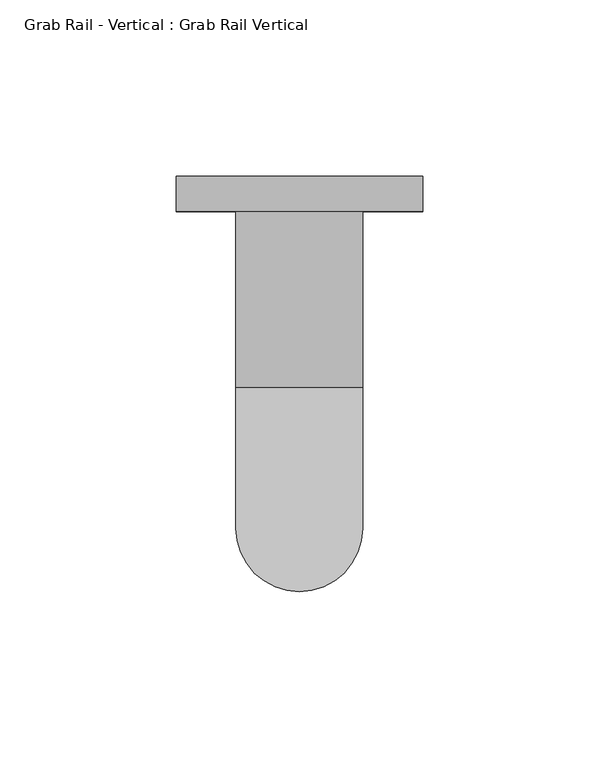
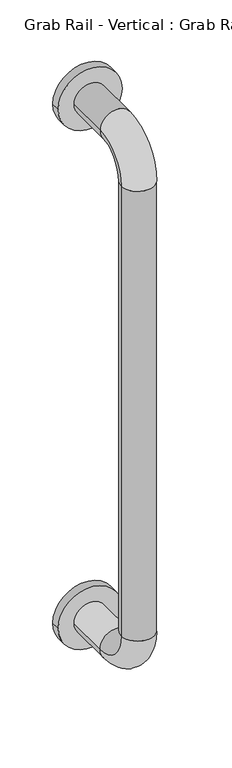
"""IFC4 building model written with IfcOpenShell, lengths in millimetres: flow terminal geometry, Grab Rail - Vertical : Grab Rail Vertical."""

import ifcopenshell
import ifcopenshell.guid

model = None  # the IFC model being written
_history = None  # IfcOwnerHistory: only IFC2X3 demands one
_inside = {}  # id of a spatial element -> (the spatial element, [elements in it])
_under = {}  # id of a project, library or spatial element -> (it, [spatial elements below it])
_declared = {}  # id of a project -> (the project, [libraries it declares])
_typed = {}  # id of a type object -> (the type object, [elements of that type])
_made_of = {}  # id of a material, layer set ... -> (it, [elements and type objects made of it])


def new_model(schema):
    """Start an empty IFC model of exactly this schema.

    Asked for "IFC4X3", IfcOpenShell would pick the latest addendum, in which some entities
    have other attributes; the version numbers below select the first issue.
    IFC2X3 requires an IfcOwnerHistory on every rooted entity: one is made here for all.
    """
    global model, _history
    if schema == "IFC4X3":
        model = ifcopenshell.file(schema_version=(4, 3, 0, 0))
    else:
        model = ifcopenshell.file(schema=schema)
    _inside.clear()
    _under.clear()
    _declared.clear()
    _typed.clear()
    _made_of.clear()
    _history = None
    if model.schema == "IFC2X3":
        org = make("IfcOrganization", Name="unknown")
        user = make(
            "IfcPersonAndOrganization",
            ThePerson=make("IfcPerson", FamilyName="unknown"),
            TheOrganization=org,
        )
        app = make(
            "IfcApplication",
            ApplicationDeveloper=org,
            Version="unknown",
            ApplicationFullName="unknown",
            ApplicationIdentifier="unknown",
        )
        _history = make(
            "IfcOwnerHistory",
            OwningUser=user,
            OwningApplication=app,
            ChangeAction="ADDED",
            CreationDate=0,
        )
    return model


def make(cls, **values):
    """One entity of the class cls with the attributes given. An attribute that is None is left unset."""
    return model.create_entity(
        cls, **{name: value for name, value in values.items() if value is not None}
    )


def rooted(cls, **values):
    """An entity with a GlobalId (a new one), such as an element, a storey or a relation."""
    return make(cls, GlobalId=ifcopenshell.guid.new(), OwnerHistory=_history, **values)


def si_unit(unit_type, name, prefix=None):
    """IfcSIUnit, for example si_unit("LENGTHUNIT", "METRE", prefix="MILLI")."""
    return make("IfcSIUnit", UnitType=unit_type, Prefix=prefix, Name=name)


def assignment(units):
    """IfcUnitAssignment: the units of a project."""
    return None if units is None else make("IfcUnitAssignment", Units=units)


def point(xyz):
    """IfcCartesianPoint."""
    return None if xyz is None else make("IfcCartesianPoint", Coordinates=xyz)


def direction(xyz):
    """IfcDirection."""
    return None if xyz is None else make("IfcDirection", DirectionRatios=xyz)


def frame(location, z_axis=None, x_axis=None):
    """IfcAxis2Placement3D, a coordinate frame: its origin and axes. An axis left out is left unset."""
    return make(
        "IfcAxis2Placement3D",
        Location=point(location),
        Axis=direction(z_axis),
        RefDirection=direction(x_axis),
    )


def frame_2d(location, x_axis=None):
    """IfcAxis2Placement2D, a coordinate frame in the plane: its origin and x axis."""
    return make(
        "IfcAxis2Placement2D", Location=point(location), RefDirection=direction(x_axis)
    )


def origin():
    """The frame at (0, 0, 0) with its axes left unset."""
    return frame((0.0, 0.0, 0.0))


def place(relative_to, where):
    """IfcLocalPlacement: puts the frame where relative to a parent placement (None: the world)."""
    return make(
        "IfcLocalPlacement", PlacementRelTo=relative_to, RelativePlacement=where
    )


def context(
    kind, dimensions, precision=None, world=None, true_north=None, identifier=None
):
    """IfcGeometricRepresentationContext, for example the 3D "Model" context."""
    return make(
        "IfcGeometricRepresentationContext",
        ContextIdentifier=identifier,
        ContextType=kind,
        CoordinateSpaceDimension=dimensions,
        Precision=precision,
        WorldCoordinateSystem=world,
        TrueNorth=true_north,
    )


def project(units=None, contexts=None):
    """IfcProject with its units and contexts."""
    return rooted(
        "IfcProject",
        Name="project",
        RepresentationContexts=contexts,
        UnitsInContext=assignment(units),
    )


def spatial(cls, under=None, at=None, **own):
    """A site, building, storey or space (cls), placed at a placement, below another one or the project."""
    s = rooted(cls, ObjectPlacement=at, **own)
    if under is not None:
        _under.setdefault(under.id(), (under, []))[1].append(s)
    return s


def circle_curve(where, radius):
    """IfcCircle in the frame where."""
    return make("IfcCircle", Position=where, Radius=radius)


def ellipse_curve(where, semi_axis1, semi_axis2):
    """IfcEllipse in the frame where."""
    return make(
        "IfcEllipse", Position=where, SemiAxis1=semi_axis1, SemiAxis2=semi_axis2
    )


def trimmed(basis, trim1, trim2, sense, master):
    """IfcTrimmedCurve: the piece of a basis curve between two trims."""
    return make(
        "IfcTrimmedCurve",
        BasisCurve=basis,
        Trim1=trim1,
        Trim2=trim2,
        SenseAgreement=sense,
        MasterRepresentation=master,
    )


def segment(curve, same_sense, transition):
    """IfcCompositeCurveSegment."""
    return make(
        "IfcCompositeCurveSegment",
        Transition=transition,
        SameSense=same_sense,
        ParentCurve=curve,
    )


def composite_curve(segments, self_intersect=None):
    """IfcCompositeCurve: segments joined end to end."""
    return make("IfcCompositeCurve", Segments=segments, SelfIntersect=self_intersect)


def outline(outer, holes=None, kind="AREA"):
    """IfcArbitraryClosedProfileDef: a profile drawn as a closed curve; with holes, ...WithVoids."""
    if holes is None:
        return make("IfcArbitraryClosedProfileDef", ProfileType=kind, OuterCurve=outer)
    return make(
        "IfcArbitraryProfileDefWithVoids",
        ProfileType=kind,
        OuterCurve=outer,
        InnerCurves=holes,
    )


def extrude(swept, where, along, depth):
    """IfcExtrudedAreaSolid: the profile swept, set in the frame where, extruded along a direction by depth."""
    return make(
        "IfcExtrudedAreaSolid",
        SweptArea=swept,
        Position=where,
        ExtrudedDirection=direction(along),
        Depth=depth,
    )


def shape(context_of_items, identifier, shape_type, items):
    """IfcShapeRepresentation: the items that make up one representation, for example the "Body"."""
    return make(
        "IfcShapeRepresentation",
        ContextOfItems=context_of_items,
        RepresentationIdentifier=identifier,
        RepresentationType=shape_type,
        Items=items,
    )


def source(mapping_origin, context_of_items, identifier, shape_type, items):
    """IfcRepresentationMap: a shape defined once, which mapped items show again and again."""
    return make(
        "IfcRepresentationMap",
        MappingOrigin=mapping_origin,
        MappedRepresentation=shape(context_of_items, identifier, shape_type, items),
    )


def transform(
    local_origin,
    x_axis=None,
    y_axis=None,
    z_axis=None,
    scale=None,
    scale2=None,
    scale3=None,
    uniform=True,
):
    """IfcCartesianTransformationOperator3D, or its non-uniform kind. x_axis, y_axis, z_axis: its Axis1, 2, 3."""
    if uniform:
        return make(
            "IfcCartesianTransformationOperator3D",
            Axis1=direction(x_axis),
            Axis2=direction(y_axis),
            LocalOrigin=point(local_origin),
            Scale=scale,
            Axis3=direction(z_axis),
        )
    return make(
        "IfcCartesianTransformationOperator3DnonUniform",
        Axis1=direction(x_axis),
        Axis2=direction(y_axis),
        LocalOrigin=point(local_origin),
        Scale=scale,
        Axis3=direction(z_axis),
        Scale2=scale2,
        Scale3=scale3,
    )


def mapped(mapping_source, mapping_target):
    """IfcMappedItem: shows the shape of a source again, moved by a transform."""
    return make(
        "IfcMappedItem", MappingSource=mapping_source, MappingTarget=mapping_target
    )


def made_of(thing, what):
    """Note that an element or type object is made of a material, layer set ...; save() writes the relation."""
    if what is not None:
        _made_of.setdefault(what.id(), (what, []))[1].append(thing)
    return thing


def element(
    cls,
    number,
    at=None,
    inside=None,
    cuts=None,
    type_object=None,
    material=None,
    context=None,
    identifier="Body",
    shape_type=None,
    held_by="IfcProductDefinitionShape",
    body=None,
    shapes=None,
    **own,
):
    """One element of the class cls, such as IfcWall. Its Tag is "e" and its number.

    at: its placement. inside: the storey or other place that contains it. cuts: it is an
    opening in that element (IfcRelVoidsElement). A single representation is given by context,
    identifier, shape_type and body (its items); several are given by shapes. held_by: the class
    of the entity that holds the representations. save() writes the other relations.
    """
    e = rooted(cls, Tag="e%d" % number, ObjectPlacement=at, **own)
    if body is not None:
        shapes = [shape(context, identifier, shape_type, body)]
    if shapes is not None:
        e.Representation = make(held_by, Representations=shapes)
    if inside is not None:
        _inside.setdefault(inside.id(), (inside, []))[1].append(e)
    if cuts is not None:
        rooted(
            "IfcRelVoidsElement", RelatingBuildingElement=cuts, RelatedOpeningElement=e
        )
    if type_object is not None:
        _typed.setdefault(type_object.id(), (type_object, []))[1].append(e)
    return made_of(e, material)


def aggregate(whole, parts):
    """IfcRelAggregates: a whole, such as a stair, and the parts it consists of."""
    return rooted("IfcRelAggregates", RelatingObject=whole, RelatedObjects=parts)


def save(model, path):
    """Write the relations noted so far, then the file.

    IfcRelAggregates (storeys below a building ...), IfcRelContainedInSpatialStructure (elements
    in a storey), IfcRelDefinesByType, IfcRelAssociatesMaterial and IfcRelDeclares: one each for
    every whole, place, type object, material and project.
    """
    for whole, parts in _under.values():
        aggregate(whole, parts)
    for where, things in _inside.values():
        rooted(
            "IfcRelContainedInSpatialStructure",
            RelatedElements=things,
            RelatingStructure=where,
        )
    for kind, things in _typed.values():
        rooted("IfcRelDefinesByType", RelatedObjects=things, RelatingType=kind)
    for what, things in _made_of.values():
        rooted("IfcRelAssociatesMaterial", RelatedObjects=things, RelatingMaterial=what)
    for by, libraries in _declared.values():
        rooted("IfcRelDeclares", RelatingContext=by, RelatedDefinitions=libraries)
    model.write(path)


def plane_surface(at):
    """IfcPlane: the flat surface through the origin of the frame at, square to its z axis."""
    return make("IfcPlane", Position=at)


def cylinder_surface(at, radius):
    """IfcCylindricalSurface: all points at the distance radius from the z axis of the frame at."""
    return make("IfcCylindricalSurface", Position=at, Radius=radius)


def revolved_surface(curve, axis_point, axis_direction):
    """IfcSurfaceOfRevolution: the curve turned about the line through axis_point along axis_direction."""
    return make(
        "IfcSurfaceOfRevolution",
        SweptCurve=make("IfcArbitraryOpenProfileDef", ProfileType="CURVE", Curve=curve),
        AxisPosition=make("IfcAxis1Placement", Location=point(axis_point), Axis=direction(axis_direction)),
    )


def advanced_brep(points, edges, surfaces, faces):
    """IfcAdvancedBrep: a solid bounded by faces that lie on surfaces and meet in shared edges.

    An edge is (start, end): straight between two places in points (the first is 0);
    or (start, end, curve); or (start, end, curve, False) where it runs against its curve.
    A face is (place in surfaces, loops), or (place, loops, False) where it looks against
    its surface's normal. A loop lists edges by number (the first is 1), with a minus sign
    where the edge is run from its end to its start. The first loop is the outer one.
    """
    corners = [point(p) for p in points]
    vertices = [make("IfcVertexPoint", VertexGeometry=c) for c in corners]
    made = []
    for start, end, *more in edges:
        made.append(
            make(
                "IfcEdgeCurve",
                EdgeStart=vertices[start],
                EdgeEnd=vertices[end],
                EdgeGeometry=more[0] if more else make("IfcPolyline", Points=[corners[start], corners[end]]),
                SameSense=more[1] if len(more) > 1 else True,
            )
        )
    hull = []
    for where, loops, *sense in faces:
        bounds = []
        for j, loop in enumerate(loops):
            ring = [make("IfcOrientedEdge", EdgeElement=made[abs(k) - 1], Orientation=k > 0) for k in loop]
            bounds.append(
                make(
                    "IfcFaceOuterBound" if j == 0 else "IfcFaceBound",
                    Bound=make("IfcEdgeLoop", EdgeList=ring),
                    Orientation=True,
                )
            )
        hull.append(make("IfcAdvancedFace", Bounds=bounds, FaceSurface=surfaces[where], SameSense=sense[0] if sense else True))
    return make("IfcAdvancedBrep", Outer=make("IfcClosedShell", CfsFaces=hull))


def grab_rail_vertical_grab_rail_vertical_4faa361f(model_context):
    return source(origin(), model_context, "Body", "SolidModel", [
        extrude(outline(composite_curve([segment(trimmed(circle_curve(frame_2d((1400.0, -855.7956665)), 35.0), [point((1400.0, -820.7956665))], [point((1400.0, -890.7956665))], False, "CARTESIAN"), True, "CONTINUOUS"), segment(trimmed(circle_curve(frame_2d((1400.0, -855.7956665)), 35.0), [point((1400.0, -890.7956665))], [point((1400.0, -820.7956665))], False, "CARTESIAN"), True, "CONTINUOUS")], self_intersect=False)), frame((0.0, -10.0, 0.0), z_axis=(0.0, 1.0, 0.0), x_axis=(0.0, 0.0, 1.0)), (0.0, 0.0, 1.0), 10.0),
        extrude(outline(composite_curve([segment(trimmed(circle_curve(frame_2d((800.0, -855.7956665)), 35.0), [point((800.0, -820.7956665))], [point((800.0, -890.7956665))], False, "CARTESIAN"), True, "CONTINUOUS"), segment(trimmed(circle_curve(frame_2d((800.0, -855.7956665)), 35.0), [point((800.0, -890.7956665))], [point((800.0, -820.7956665))], False, "CARTESIAN"), True, "CONTINUOUS")], self_intersect=False)), frame((0.0, -10.0, 0.0), z_axis=(0.0, 1.0, 0.0), x_axis=(0.0, 0.0, 1.0)), (0.0, 0.0, 1.0), 10.0),
        advanced_brep(
        [(-873.7956665, -10.0, 1400.0), (-837.7956665, -10.0, 1400.0), (-837.7956665, -60.0, 1400.0), (-873.7956665, -60.0, 1400.0), (-837.7956665, -100.0, 1360.0), (-873.7956665, -100.0, 1360.0), (-837.7956665, -100.0, 840.0), (-873.7956665, -100.0, 840.0), (-837.7956665, -60.0, 800.0), (-873.7956665, -60.0, 800.0), (-873.7956665, -10.0, 800.0), (-837.7956665, -10.0, 800.0)],
        [
            (0, 1, circle_curve(frame((-855.7956665, -10.0, 1400.0), z_axis=(0.0, 1.0, 0.0), x_axis=(1.0, 0.0, 0.0)), 18.0)),
            (1, 0, circle_curve(frame((-855.7956665, -10.0, 1400.0), z_axis=(0.0, 1.0, 0.0), x_axis=(1.0, 0.0, 0.0)), 18.0)),
            (1, 2),
            (2, 3, circle_curve(frame((-855.7956665, -60.0, 1400.0), z_axis=(0.0, 1.0, 0.0), x_axis=(1.0, 0.0, 0.0)), 18.0)),
            (3, 0),
            (3, 2, circle_curve(frame((-855.7956665, -60.0, 1400.0), z_axis=(0.0, 1.0, 0.0), x_axis=(1.0, 0.0, 0.0)), 18.0)),
            (4, 5, circle_curve(frame((-855.7956665, -100.0, 1360.0), z_axis=(0.0, 0.0, 1.0), x_axis=(1.0, 0.0, 0.0)), 18.0)),
            (5, 3, circle_curve(frame((-873.7956665, -60.0, 1360.0), z_axis=(-1.0, 0.0, 0.0), x_axis=(0.0, 0.0, 1.0)), 40.0)),
            (2, 4, circle_curve(frame((-837.7956665, -60.0, 1360.0), z_axis=(1.0, 0.0, 0.0), x_axis=(0.0, 0.0, 1.0)), 40.0)),
            (5, 4, circle_curve(frame((-855.7956665, -100.0, 1360.0), z_axis=(0.0, 0.0, 1.0), x_axis=(1.0, 0.0, 0.0)), 18.0)),
            (4, 6),
            (6, 7, circle_curve(frame((-855.7956665, -100.0, 840.0), z_axis=(0.0, 0.0, 1.0), x_axis=(1.0, 0.0, 0.0)), 18.0)),
            (7, 5),
            (7, 6, circle_curve(frame((-855.7956665, -100.0, 840.0), z_axis=(0.0, 0.0, 1.0), x_axis=(1.0, 0.0, 0.0)), 18.0)),
            (8, 9, circle_curve(frame((-855.7956665, -60.0, 800.0), z_axis=(0.0, -1.0, 0.0), x_axis=(1.0, 0.0, 0.0)), 18.0)),
            (9, 7, circle_curve(frame((-873.7956665, -60.0, 840.0), z_axis=(-1.0, 0.0, 0.0), x_axis=(0.0, -1.0, 0.0)), 40.0)),
            (6, 8, circle_curve(frame((-837.7956665, -60.0, 840.0), z_axis=(1.0, 0.0, 0.0), x_axis=(0.0, -1.0, 0.0)), 40.0)),
            (9, 8, circle_curve(frame((-855.7956665, -60.0, 800.0), z_axis=(0.0, -1.0, 0.0), x_axis=(1.0, 0.0, 0.0)), 18.0)),
            (10, 11, circle_curve(frame((-855.7956665, -10.0, 800.0), z_axis=(0.0, 1.0, 0.0), x_axis=(1.0, 0.0, 0.0)), 18.0)),
            (11, 10, circle_curve(frame((-855.7956665, -10.0, 800.0), z_axis=(0.0, 1.0, 0.0), x_axis=(1.0, 0.0, 0.0)), 18.0)),
            (8, 11),
            (10, 9),
        ],
        [
            plane_surface(frame((-855.7956665, -10.0, 1400.0), z_axis=(0.0, 1.0, 0.0), x_axis=(1.0, 0.0, 0.0))),
            cylinder_surface(frame((-855.7956665, -10.0, 1400.0), z_axis=(0.0, 1.0, 0.0), x_axis=(1.0, 0.0, 0.0)), 18.0),
            revolved_surface(trimmed(ellipse_curve(frame((-855.7956665, -60.0, 1400.0), z_axis=(0.0, -1.0, 0.0), x_axis=(1.0, 0.0, 0.0)), 18.0, 18.0), [point((-873.7956665, -60.0, 1400.0))], [point((-837.7956665, -60.0, 1400.0))], True, "CARTESIAN"), (-855.7956665, -60.0, 1360.0), (-1.0, 0.0, 0.0)),
            revolved_surface(trimmed(ellipse_curve(frame((-855.7956665, -60.0, 1400.0), z_axis=(0.0, -1.0, 0.0), x_axis=(1.0, 0.0, 0.0)), 18.0, 18.0), [point((-837.7956665, -60.0, 1400.0))], [point((-873.7956665, -60.0, 1400.0))], True, "CARTESIAN"), (-855.7956665, -60.0, 1360.0), (-1.0, 0.0, 0.0)),
            cylinder_surface(frame((-855.7956665, -100.0, 1360.0), z_axis=(0.0, 0.0, 1.0), x_axis=(1.0, 0.0, 0.0)), 18.0),
            revolved_surface(trimmed(ellipse_curve(frame((-855.7956665, -100.0, 840.0), z_axis=(0.0, 0.0, -1.0), x_axis=(1.0, 0.0, 0.0)), 18.0, 18.0), [point((-873.7956665, -100.0, 840.0))], [point((-837.7956665, -100.0, 840.0))], True, "CARTESIAN"), (-855.7956665, -60.0, 840.0), (-1.0, 0.0, 0.0)),
            revolved_surface(trimmed(ellipse_curve(frame((-855.7956665, -100.0, 840.0), z_axis=(0.0, 0.0, -1.0), x_axis=(1.0, 0.0, 0.0)), 18.0, 18.0), [point((-837.7956665, -100.0, 840.0))], [point((-873.7956665, -100.0, 840.0))], True, "CARTESIAN"), (-855.7956665, -60.0, 840.0), (-1.0, 0.0, 0.0)),
            plane_surface(frame((-855.7956665, -10.0, 800.0), z_axis=(0.0, 1.0, 0.0), x_axis=(1.0, 0.0, 0.0))),
            cylinder_surface(frame((-855.7956665, -60.0, 800.0), z_axis=(0.0, -1.0, 0.0), x_axis=(1.0, 0.0, 0.0)), 18.0),
        ],
        [
            (0, [[1, 2]]),
            (1, [[3, 4, 5, -2]]),
            (1, [[-5, 6, -3, -1]]),
            (2, [[7, 8, -4, 9]]),
            (3, [[10, -9, -6, -8]]),
            (4, [[11, 12, 13, -7]]),
            (4, [[-13, 14, -11, -10]]),
            (5, [[15, 16, -12, 17]]),
            (6, [[18, -17, -14, -16]]),
            (7, [[19, 20]]),
            (8, [[21, -19, 22, -15]]),
            (8, [[-22, -20, -21, -18]]),
        ],
    ),
    ])


if __name__ == "__main__":
    model = new_model("IFC4")
    model_context = context("Model", 3, world=origin())
    ifc_project = project(units=[si_unit("LENGTHUNIT", "METRE", prefix="MILLI")], contexts=[model_context])
    site = spatial("IfcSite", under=ifc_project)
    building = spatial("IfcBuilding", under=site)
    placement = place(None, origin())
    grab_rail_vertical_grab_rail_vertical_shape = grab_rail_vertical_grab_rail_vertical_4faa361f(model_context)
    element("IfcFlowTerminal", 1, ObjectType="Grab Rail - Vertical : Grab Rail Vertical", at=placement, inside=building, context=model_context, shape_type="MappedRepresentation", body=[
        mapped(grab_rail_vertical_grab_rail_vertical_shape, transform((0.0, 0.0, 0.0), x_axis=(1.0, 0.0, 0.0), y_axis=(0.0, 1.0, 0.0), z_axis=(0.0, 0.0, 1.0))),
    ])
    save(model, "model.ifc")
